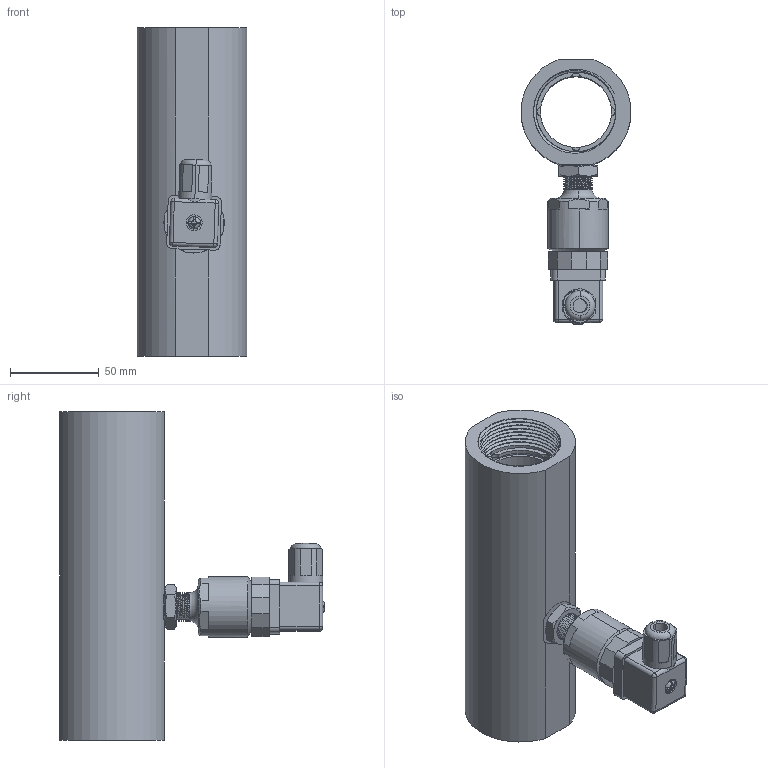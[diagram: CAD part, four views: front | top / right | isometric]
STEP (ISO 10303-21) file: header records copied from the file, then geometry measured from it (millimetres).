
FILE_DESCRIPTION( (''), '2;1');
FILE_NAME( 'QTKB_DN40.step', '2023-11-29T08:02:37+08:00', (''), (''), '', '', '');
FILE_SCHEMA (('AUTOMOTIVE_DESIGN { 1 0 10303 214 3 1 1 1 }'));
Length unit declared in the file: millimetre
Products named in the file (2): 454611316; QTKB DN40
Assembly tree (1 placements, depth 2):
  QTKB DN40
    454611316
Bounding box: 61.78 x 149 x 185 mm (x, y, z)
Volume: 367867.1 mm3; surface area: 88241.3 mm2
Topology: 5 solids, 6 shells, 406 faces, 1097 edges, 720 vertices
Faces by surface type: plane 270, cylinder 78, bspline 25, cone 25, torus 4, sphere 4
Full cylindrical faces by diameter (mm): 40 x1, 43 x2
Entity records: 25060 total; most frequent: CARTESIAN_POINT 14975, ORIENTED_EDGE 2174, DIRECTION 1937, EDGE_CURVE 1087, VERTEX_POINT 717, LINE 673, VECTOR 673, AXIS2_PLACEMENT_3D 632
